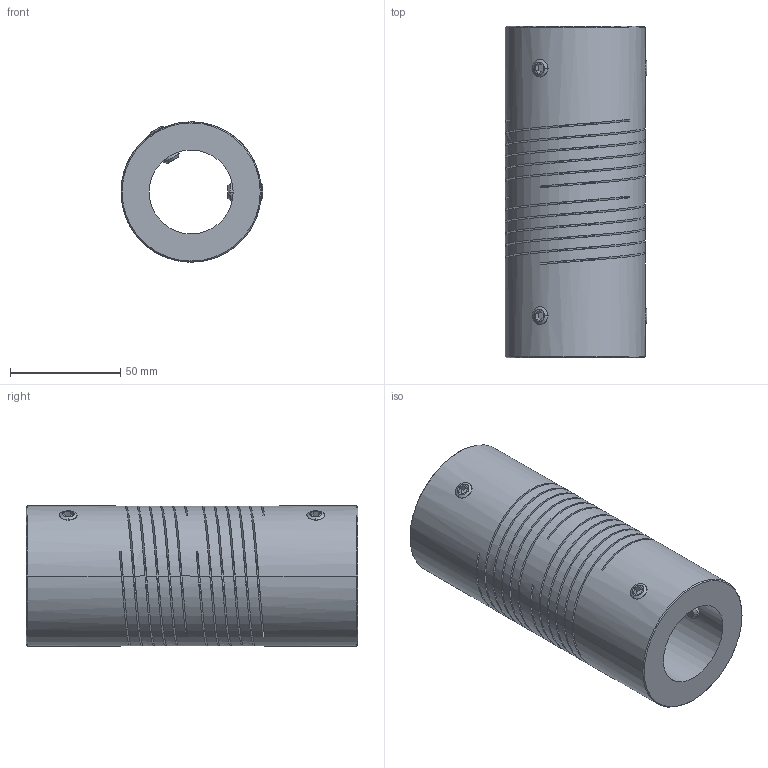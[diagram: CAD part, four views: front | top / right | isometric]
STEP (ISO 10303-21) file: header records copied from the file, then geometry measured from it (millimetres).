
FILE_DESCRIPTION((''),'2;1');
FILE_NAME('722_64_ASM','2006-12-05T',('Gary Melling'),(''),'PRO/ENGINEER BY PARAMETRIC TECHNOLOGY CORPORATION, 2006240','PRO/ENGINEER BY PARAMETRIC TECHNOLOGY CORPORATION, 2006240','');
FILE_SCHEMA(('CONFIG_CONTROL_DESIGN'));
Length unit declared in the file: millimetre
Products named in the file (3): 722_64; GS_8; 722_64_ASM
Assembly tree (5 placements, depth 2):
  722_64_ASM
    722_64
    GS_8  x4
Bounding box: 64.25 x 150 x 63.5 mm (x, y, z)
Volume: 282868.5 mm3; surface area: 97230.9 mm2
Topology: 5 solids, 5 shells, 142 faces, 394 edges, 252 vertices
Faces by surface type: cylinder 58, plane 52, cone 20, bspline 12
Entity records: 6840 total; most frequent: CARTESIAN_POINT 4311, ORIENTED_EDGE 596, DIRECTION 384, EDGE_CURVE 298, VERTEX_POINT 192, VECTOR 142, LINE 142, B_SPLINE_CURVE_WITH_KNOTS 128
